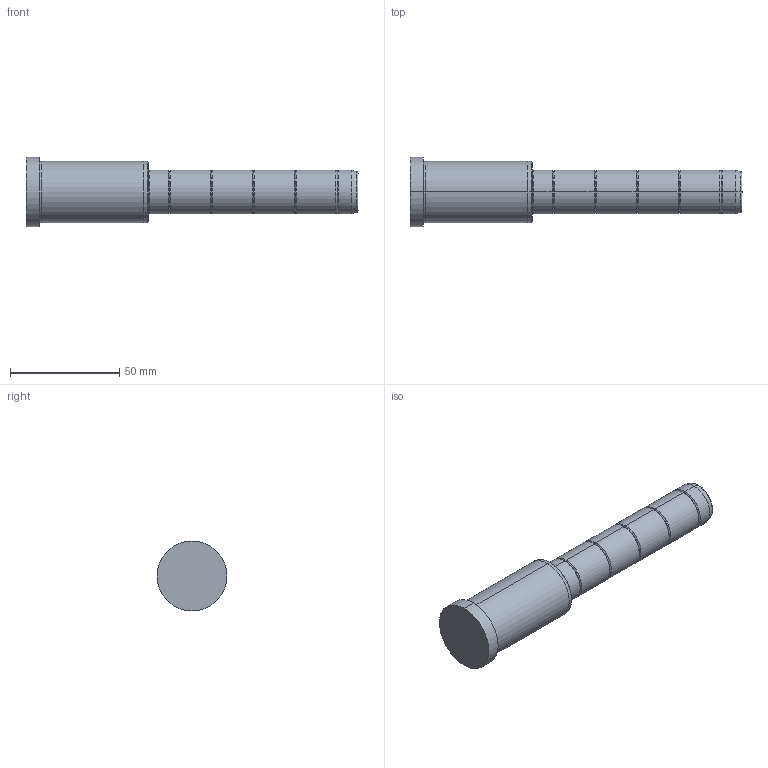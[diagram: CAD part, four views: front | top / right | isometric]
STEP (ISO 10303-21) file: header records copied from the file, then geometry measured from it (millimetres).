
FILE_DESCRIPTION( ( 'STEP AP203' ), '1' );
FILE_NAME( 'C:/Projects/D02 - 20x56x96.step', '2003-01-04T13:54:18', ( ' ' ), ( ' ' ), 'XStep 1.0', ' ', ' ' );
FILE_SCHEMA( ( 'CONFIG_CONTROL_DESIGN' ) );
Length unit declared in the file: metre
Products named in the file (1): 1
Bounding box: 152 x 32 x 32 mm (x, y, z)
Volume: 65605.4 mm3; surface area: 12707.6 mm2
Topology: 1 solids, 1 shells, 54 faces, 106 edges, 58 vertices
Faces by surface type: bspline 30, revolution 24
Entity records: 1721 total; most frequent: CARTESIAN_POINT 717, ORIENTED_EDGE 212, DIRECTION 166, EDGE_CURVE 106, AXIS2_PLACEMENT_3D 59, EDGE_LOOP 58, VERTEX_POINT 58, CIRCLE 58
